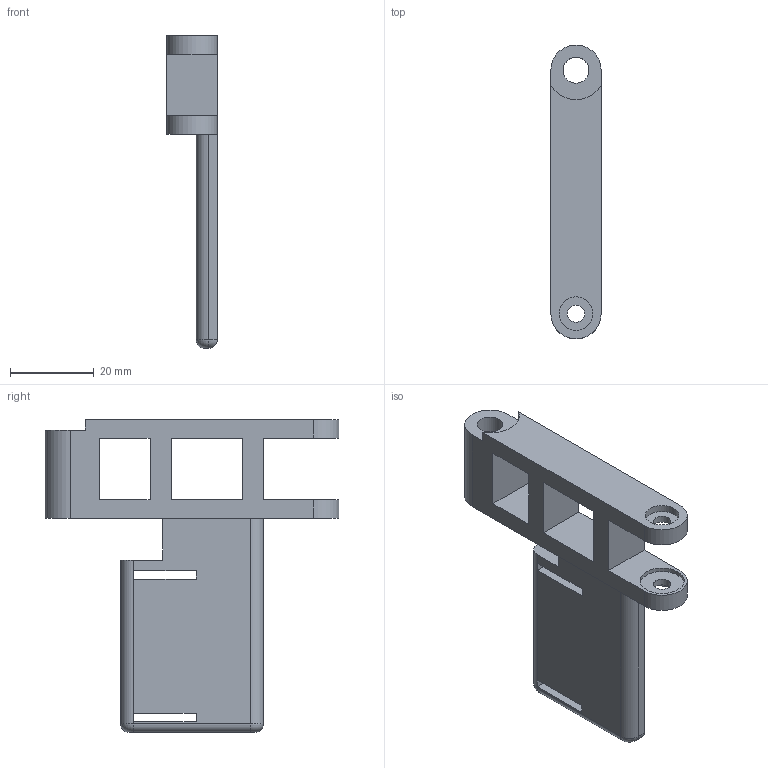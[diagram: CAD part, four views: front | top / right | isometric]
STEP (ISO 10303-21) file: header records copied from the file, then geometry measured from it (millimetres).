
FILE_DESCRIPTION (( 'STEP AP214' ), '1' );
FILE_NAME ('right-hand-right-finger-inner-link.step', '2026-11-14T03:55:05', ( '' ), ( '' ), 'SwSTEP 2.0', 'SolidWorks 2024', '' );
FILE_SCHEMA (( 'AUTOMOTIVE_DESIGN' ));
Length unit declared in the file: millimetre
Products named in the file (1): right-hand-right-finger-inner-link
Bounding box: 12 x 70 x 74.5 mm (x, y, z)
Volume: 17236.2 mm3; surface area: 10100.2 mm2
Topology: 1 solids, 1 shells, 58 faces, 152 edges, 99 vertices
Faces by surface type: plane 40, cylinder 16, torus 2
Full cylindrical faces by diameter (mm): 4.1 x2, 6.16 x1, 8 x1, 10.5 x2
Entity records: 1764 total; most frequent: CARTESIAN_POINT 304, DIRECTION 289, ORIENTED_EDGE 286, EDGE_CURVE 143, LINE 111, VECTOR 111, VERTEX_POINT 96, AXIS2_PLACEMENT_3D 89
